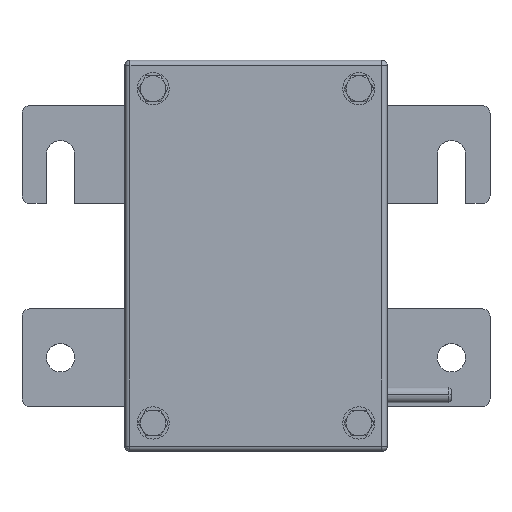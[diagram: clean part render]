
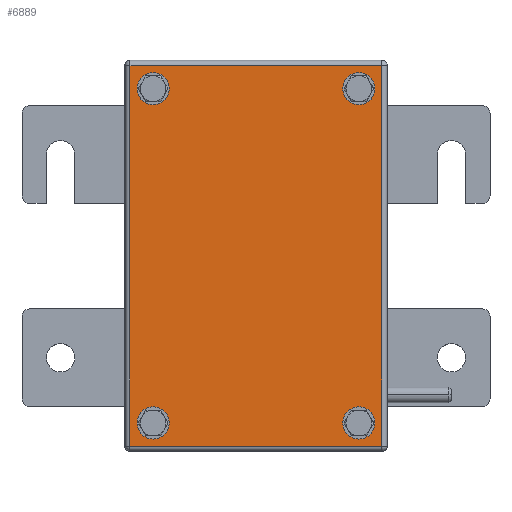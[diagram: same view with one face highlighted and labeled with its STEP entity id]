
A CAD part, top view. The second image highlights one B-rep face of the part: STEP entity #6889.
In plain terms, the highlighted planar face has unit normal (0, 0, 1) as drawn and (0, -1, 0) by its records, which use the part's own axes.
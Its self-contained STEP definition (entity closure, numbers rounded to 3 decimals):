
#36 = ORIENTED_EDGE ( 'NONE', *, *, #5421, .F. ) ;
#133 = DIRECTION ( 'NONE',  ( 0., -1., 0. ) ) ;
#151 = DIRECTION ( 'NONE',  ( 0., 0., 1. ) ) ;
#177 = CIRCLE ( 'NONE', #4820, 3.5 ) ;
#316 = CARTESIAN_POINT ( 'NONE',  ( 65., 0., 43.5 ) ) ;
#329 = CIRCLE ( 'NONE', #2735, 3.5 ) ;
#358 = EDGE_CURVE ( 'NONE', #1727, #4634, #4279, .T. ) ;
#411 = ORIENTED_EDGE ( 'NONE', *, *, #3232, .F. ) ;
#412 = VERTEX_POINT ( 'NONE', #7466 ) ;
#578 = VERTEX_POINT ( 'NONE', #5187 ) ;
#598 = VECTOR ( 'NONE', #2257, 1000. ) ;
#662 = CARTESIAN_POINT ( 'NONE',  ( 65., 0., 36.5 ) ) ;
#697 = VERTEX_POINT ( 'NONE', #316 ) ;
#886 = CARTESIAN_POINT ( 'NONE',  ( 65., 0., 40. ) ) ;
#904 = CARTESIAN_POINT ( 'NONE',  ( -74., 0., -49. ) ) ;
#1082 = CARTESIAN_POINT ( 'NONE',  ( -74., 0., 49. ) ) ;
#1168 = DIRECTION ( 'NONE',  ( 1., 0., 0. ) ) ;
#1183 = DIRECTION ( 'NONE',  ( 0., 0., -1. ) ) ;
#1185 = CIRCLE ( 'NONE', #2253, 3.5 ) ;
#1189 = ORIENTED_EDGE ( 'NONE', *, *, #2311, .F. ) ;
#1192 = EDGE_CURVE ( 'NONE', #412, #6988, #3014, .T. ) ;
#1230 = EDGE_CURVE ( 'NONE', #4111, #1708, #177, .T. ) ;
#1374 = VECTOR ( 'NONE', #1168, 1000. ) ;
#1380 = EDGE_LOOP ( 'NONE', ( #411, #36 ) ) ;
#1382 = ORIENTED_EDGE ( 'NONE', *, *, #6323, .F. ) ;
#1582 = EDGE_CURVE ( 'NONE', #1708, #4111, #2166, .T. ) ;
#1708 = VERTEX_POINT ( 'NONE', #2130 ) ;
#1727 = VERTEX_POINT ( 'NONE', #7282 ) ;
#1846 = DIRECTION ( 'NONE',  ( 0., 0., -1. ) ) ;
#2019 = CIRCLE ( 'NONE', #4807, 3.5 ) ;
#2039 = DIRECTION ( 'NONE',  ( 0., 0., -1. ) ) ;
#2112 = DIRECTION ( 'NONE',  ( 0., -1., 0. ) ) ;
#2130 = CARTESIAN_POINT ( 'NONE',  ( -65., 0., -36.5 ) ) ;
#2155 = ORIENTED_EDGE ( 'NONE', *, *, #3506, .T. ) ;
#2166 = CIRCLE ( 'NONE', #4703, 3.5 ) ;
#2253 = AXIS2_PLACEMENT_3D ( 'NONE', #2694, #2112, #7220 ) ;
#2257 = DIRECTION ( 'NONE',  ( 0., 0., -1. ) ) ;
#2311 = EDGE_CURVE ( 'NONE', #578, #7917, #329, .T. ) ;
#2328 = AXIS2_PLACEMENT_3D ( 'NONE', #5074, #3086, #3617 ) ;
#2545 = CARTESIAN_POINT ( 'NONE',  ( 65., 0., -40. ) ) ;
#2565 = ORIENTED_EDGE ( 'NONE', *, *, #1230, .F. ) ;
#2608 = EDGE_CURVE ( 'NONE', #4799, #412, #7926, .T. ) ;
#2694 = CARTESIAN_POINT ( 'NONE',  ( 65., 0., -40. ) ) ;
#2722 = DIRECTION ( 'NONE',  ( 0., 0., -1. ) ) ;
#2735 = AXIS2_PLACEMENT_3D ( 'NONE', #2545, #6346, #1183 ) ;
#3014 = LINE ( 'NONE', #6872, #1374 ) ;
#3072 = DIRECTION ( 'NONE',  ( 0., -1., 0. ) ) ;
#3086 = DIRECTION ( 'NONE',  ( 0., -1., 0. ) ) ;
#3116 = DIRECTION ( 'NONE',  ( 0., 0., -1. ) ) ;
#3199 = FACE_BOUND ( 'NONE', #1380, .T. ) ;
#3232 = EDGE_CURVE ( 'NONE', #6901, #697, #3655, .T. ) ;
#3287 = CARTESIAN_POINT ( 'NONE',  ( 76., 0., -51. ) ) ;
#3297 = CARTESIAN_POINT ( 'NONE',  ( 74., 0., 49. ) ) ;
#3413 = ORIENTED_EDGE ( 'NONE', *, *, #358, .F. ) ;
#3487 = CARTESIAN_POINT ( 'NONE',  ( -65., 0., 36.5 ) ) ;
#3506 = EDGE_CURVE ( 'NONE', #6459, #4799, #3953, .T. ) ;
#3525 = ORIENTED_EDGE ( 'NONE', *, *, #1582, .F. ) ;
#3617 = DIRECTION ( 'NONE',  ( 0., 0., -1. ) ) ;
#3628 = CIRCLE ( 'NONE', #5896, 3.5 ) ;
#3655 = CIRCLE ( 'NONE', #2328, 3.5 ) ;
#3785 = DIRECTION ( 'NONE',  ( 0., -1., 0. ) ) ;
#3953 = LINE ( 'NONE', #4669, #7643 ) ;
#4070 = ORIENTED_EDGE ( 'NONE', *, *, #4172, .F. ) ;
#4111 = VERTEX_POINT ( 'NONE', #5022 ) ;
#4151 = EDGE_CURVE ( 'NONE', #6988, #6459, #6224, .T. ) ;
#4172 = EDGE_CURVE ( 'NONE', #7917, #578, #1185, .T. ) ;
#4238 = ORIENTED_EDGE ( 'NONE', *, *, #2608, .T. ) ;
#4257 = CARTESIAN_POINT ( 'NONE',  ( -65., 0., -40. ) ) ;
#4279 = CIRCLE ( 'NONE', #6925, 3.5 ) ;
#4298 = ORIENTED_EDGE ( 'NONE', *, *, #1192, .T. ) ;
#4317 = AXIS2_PLACEMENT_3D ( 'NONE', #3287, #3785, #2039 ) ;
#4371 = EDGE_LOOP ( 'NONE', ( #4070, #1189 ) ) ;
#4420 = CARTESIAN_POINT ( 'NONE',  ( 65., 0., -43.5 ) ) ;
#4634 = VERTEX_POINT ( 'NONE', #3487 ) ;
#4669 = CARTESIAN_POINT ( 'NONE',  ( -74., 0., 49. ) ) ;
#4703 = AXIS2_PLACEMENT_3D ( 'NONE', #5172, #133, #2722 ) ;
#4748 = CARTESIAN_POINT ( 'NONE',  ( 74., 0., -49. ) ) ;
#4778 = VECTOR ( 'NONE', #151, 1000. ) ;
#4799 = VERTEX_POINT ( 'NONE', #1082 ) ;
#4807 = AXIS2_PLACEMENT_3D ( 'NONE', #886, #7942, #5289 ) ;
#4820 = AXIS2_PLACEMENT_3D ( 'NONE', #4257, #6908, #7440 ) ;
#5022 = CARTESIAN_POINT ( 'NONE',  ( -65., 0., -43.5 ) ) ;
#5074 = CARTESIAN_POINT ( 'NONE',  ( 65., 0., 40. ) ) ;
#5172 = CARTESIAN_POINT ( 'NONE',  ( -65., 0., -40. ) ) ;
#5187 = CARTESIAN_POINT ( 'NONE',  ( 65., 0., -36.5 ) ) ;
#5200 = FACE_BOUND ( 'NONE', #4371, .T. ) ;
#5244 = DIRECTION ( 'NONE',  ( -1., 0., 0. ) ) ;
#5289 = DIRECTION ( 'NONE',  ( 0., 0., -1. ) ) ;
#5303 = ORIENTED_EDGE ( 'NONE', *, *, #4151, .T. ) ;
#5421 = EDGE_CURVE ( 'NONE', #697, #6901, #2019, .T. ) ;
#5488 = EDGE_LOOP ( 'NONE', ( #1382, #3413 ) ) ;
#5563 = CARTESIAN_POINT ( 'NONE',  ( -65., 0., 40. ) ) ;
#5896 = AXIS2_PLACEMENT_3D ( 'NONE', #6847, #7532, #1846 ) ;
#5913 = EDGE_LOOP ( 'NONE', ( #2155, #4238, #4298, #5303 ) ) ;
#6206 = EDGE_LOOP ( 'NONE', ( #2565, #3525 ) ) ;
#6224 = LINE ( 'NONE', #6394, #4778 ) ;
#6323 = EDGE_CURVE ( 'NONE', #4634, #1727, #3628, .T. ) ;
#6346 = DIRECTION ( 'NONE',  ( 0., -1., 0. ) ) ;
#6394 = CARTESIAN_POINT ( 'NONE',  ( 74., 0., 49. ) ) ;
#6459 = VERTEX_POINT ( 'NONE', #3297 ) ;
#6847 = CARTESIAN_POINT ( 'NONE',  ( -65., 0., 40. ) ) ;
#6872 = CARTESIAN_POINT ( 'NONE',  ( 74., 0., -49. ) ) ;
#6889 = ADVANCED_FACE ( 'NONE', ( #6951, #7067, #5200, #3199, #7031 ), #7603, .T. ) ;
#6901 = VERTEX_POINT ( 'NONE', #662 ) ;
#6908 = DIRECTION ( 'NONE',  ( 0., -1., 0. ) ) ;
#6925 = AXIS2_PLACEMENT_3D ( 'NONE', #5563, #3072, #3116 ) ;
#6951 = FACE_BOUND ( 'NONE', #5488, .T. ) ;
#6988 = VERTEX_POINT ( 'NONE', #4748 ) ;
#7031 = FACE_OUTER_BOUND ( 'NONE', #5913, .T. ) ;
#7067 = FACE_BOUND ( 'NONE', #6206, .T. ) ;
#7220 = DIRECTION ( 'NONE',  ( 0., 0., -1. ) ) ;
#7282 = CARTESIAN_POINT ( 'NONE',  ( -65., 0., 43.5 ) ) ;
#7440 = DIRECTION ( 'NONE',  ( 0., 0., -1. ) ) ;
#7466 = CARTESIAN_POINT ( 'NONE',  ( -74., 0., -49. ) ) ;
#7532 = DIRECTION ( 'NONE',  ( 0., -1., 0. ) ) ;
#7603 = PLANE ( 'NONE',  #4317 ) ;
#7643 = VECTOR ( 'NONE', #5244, 1000. ) ;
#7917 = VERTEX_POINT ( 'NONE', #4420 ) ;
#7926 = LINE ( 'NONE', #904, #598 ) ;
#7942 = DIRECTION ( 'NONE',  ( 0., -1., 0. ) ) ;
